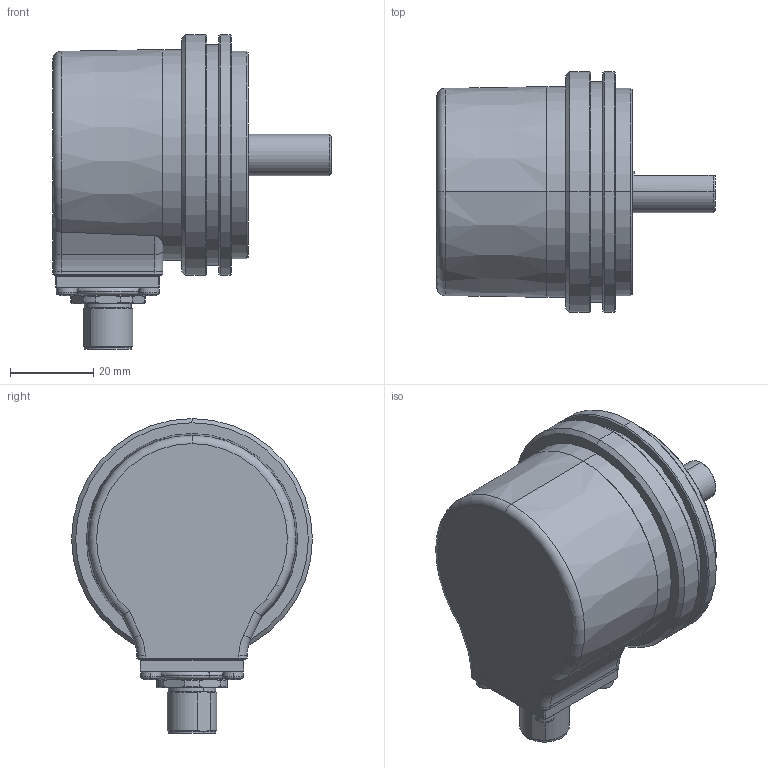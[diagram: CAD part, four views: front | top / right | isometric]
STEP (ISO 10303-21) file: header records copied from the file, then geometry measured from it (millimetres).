
FILE_DESCRIPTION (( 'STEP AP203' ), '1' );
FILE_NAME ('8.5000.B37R.XXXX.STEP', '2017-04-05T07:59:47', ( '' ), ( '' ), 'SwSTEP 2.0', 'SolidWorks 2017', '' );
FILE_SCHEMA (( 'CONFIG_CONTROL_DESIGN' ));
Length unit declared in the file: millimetre
Products named in the file (1): 8.5000.B37R.XXXX
Bounding box: 67 x 58 x 75.8 mm (x, y, z)
Surface area: 35912.8 mm2 (no closed solid volume)
Topology: 0 solids, 15 shells, 606 faces, 1440 edges, 855 vertices
Faces by surface type: plane 203, cylinder 174, cone 110, bspline 62, torus 45, sphere 12
Entity records: 19723 total; most frequent: CARTESIAN_POINT 5985, DIRECTION 2983, ORIENTED_EDGE 2752, EDGE_CURVE 1384, AXIS2_PLACEMENT_3D 1225, VERTEX_POINT 855, EDGE_LOOP 697, CIRCLE 680
